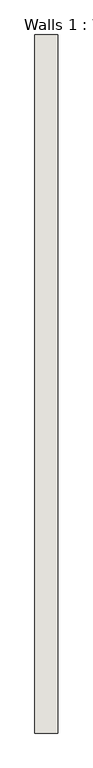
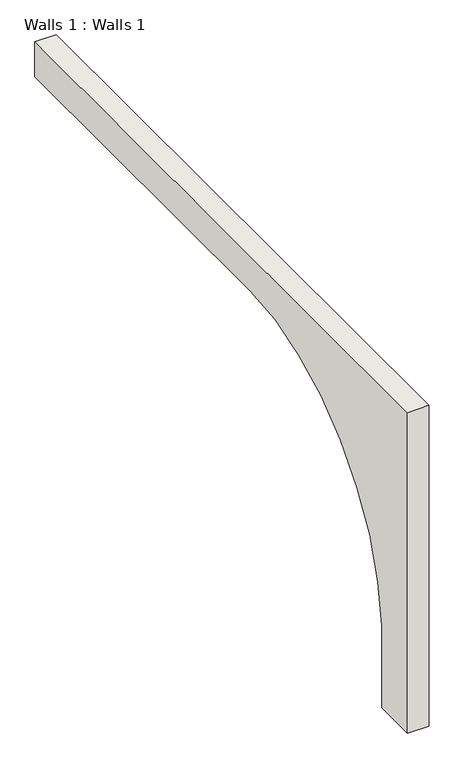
"""IFC4 building model written with IfcOpenShell, lengths in millimetres: wall geometry, Walls 1 : Walls 1."""

from ifc_helpers import new_model, si_unit, point, frame, frame_2d, origin, place, context, project, spatial, polyline, circle_curve, trimmed, segment, composite_curve, outline, extrude, source, transform, mapped, element, save


def walls_1_walls_1_fb9d67e2(model_context):
    return source(origin(), model_context, "Body", "SweptSolid", [
        extrude(outline(composite_curve([segment(polyline([(3210.3600826, 3200.0), (9310.3600826, 3200.0), (9310.3600826, 2850.0), (5790.3600826, 2850.0)]), True, "CONTINUOUS"), segment(trimmed(circle_curve(frame_2d((5790.3600826, 686.1771734)), 2163.8228266), [point((5790.3600826, 2850.0))], [point((3630.3600826, 814.7432066))], True, "CARTESIAN"), True, "CONTINUOUS"), segment(polyline([(3630.3600826, 814.7432066), (3630.3600826, 0.0), (3210.3600826, 0.0), (3210.3600826, 3200.0)]), True, "CONTINUOUS")], self_intersect=False)), frame((23935.1576528, 0.0, 0.0), z_axis=(1.0, 0.0, 0.0), x_axis=(0.0, 1.0, 0.0)), (0.0, 0.0, 1.0), 200.0),
    ])


if __name__ == "__main__":
    model = new_model("IFC4")
    model_context = context("Model", 3, world=origin())
    ifc_project = project(units=[si_unit("LENGTHUNIT", "METRE", prefix="MILLI")], contexts=[model_context])
    site = spatial("IfcSite", under=ifc_project)
    building = spatial("IfcBuilding", under=site)
    placement = place(None, origin())
    walls_1_walls_1_shape = walls_1_walls_1_fb9d67e2(model_context)
    element("IfcWall", 1, ObjectType="Walls 1 : Walls 1", at=placement, inside=building, context=model_context, shape_type="MappedRepresentation", body=[
        mapped(walls_1_walls_1_shape, transform((0.0, 0.0, 0.0), x_axis=(1.0, 0.0, 0.0), y_axis=(0.0, 1.0, 0.0), z_axis=(0.0, 0.0, 1.0))),
    ])
    save(model, "model.ifc")
